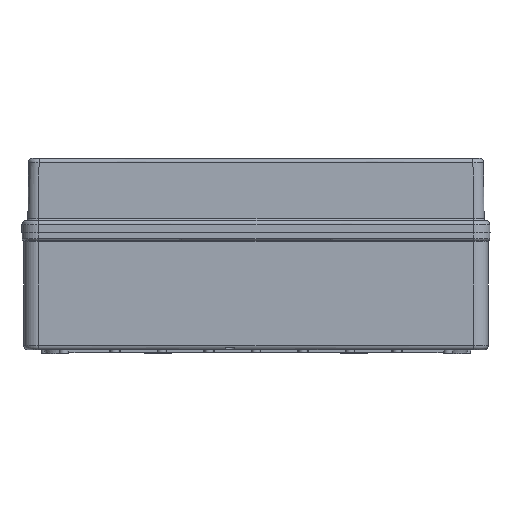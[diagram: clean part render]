
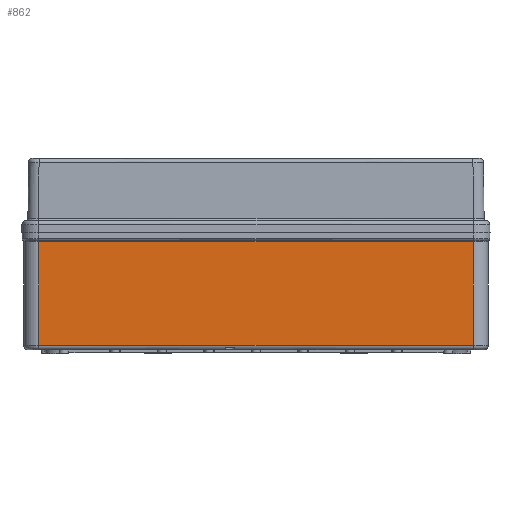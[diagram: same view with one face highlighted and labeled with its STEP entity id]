
A CAD part, front view. The second image highlights one B-rep face of the part: STEP entity #862.
In plain terms, the highlighted planar face has unit normal (0, -1, 0).
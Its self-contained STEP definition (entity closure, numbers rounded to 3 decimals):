
#400=B_SPLINE_CURVE_WITH_KNOTS('',3,(#8550,#8551,#8552,#8553,#8554,#8555,
#8556,#8557,#8558,#8559,#8560,#8561,#8562),.UNSPECIFIED.,.F.,.F.,(4,3,3,
3,4),(0.,0.017,0.084,0.352,1.),
 .UNSPECIFIED.);
#721=PLANE('',#6192);
#862=ADVANCED_FACE('',(#1240),#721,.F.);
#1240=FACE_OUTER_BOUND('',#1511,.T.);
#1511=EDGE_LOOP('',(#2789,#2790,#2791,#2792));
#1786=LINE('',#8078,#2184);
#1893=LINE('',#8548,#2291);
#1894=LINE('',#8549,#2292);
#2184=VECTOR('',#6623,1.);
#2291=VECTOR('',#6950,1.);
#2292=VECTOR('',#6951,1.);
#2789=ORIENTED_EDGE('',*,*,#4994,.T.);
#2790=ORIENTED_EDGE('',*,*,#4995,.T.);
#2791=ORIENTED_EDGE('',*,*,#4996,.F.);
#2792=ORIENTED_EDGE('',*,*,#4812,.F.);
#4115=VERTEX_POINT('',#8072);
#4118=VERTEX_POINT('',#8077);
#4234=VERTEX_POINT('',#8380);
#4239=VERTEX_POINT('',#8391);
#4812=EDGE_CURVE('',#4118,#4115,#1786,.T.);
#4994=EDGE_CURVE('',#4118,#4239,#1893,.T.);
#4995=EDGE_CURVE('',#4239,#4234,#1894,.T.);
#4996=EDGE_CURVE('',#4115,#4234,#400,.T.);
#6192=AXIS2_PLACEMENT_3D('',#8563,#6952,#6953);
#6623=DIRECTION('',(0.,0.,1.));
#6950=DIRECTION('',(1.,0.,0.));
#6951=DIRECTION('',(0.,0.,1.));
#6952=DIRECTION('',(0.,1.,0.));
#6953=DIRECTION('',(0.,0.,1.));
#8072=CARTESIAN_POINT('',(-143.3,-193.,71.3));
#8077=CARTESIAN_POINT('',(-143.3,-193.,3.));
#8078=CARTESIAN_POINT('',(-143.3,-193.,71.31));
#8380=CARTESIAN_POINT('',(143.3,-193.,71.3));
#8391=CARTESIAN_POINT('',(143.3,-193.,3.));
#8548=CARTESIAN_POINT('',(0.,-193.,3.));
#8549=CARTESIAN_POINT('',(143.3,-193.,37.15));
#8550=CARTESIAN_POINT('',(-143.3,-193.,71.3));
#8551=CARTESIAN_POINT('',(-141.7,-193.,71.3));
#8552=CARTESIAN_POINT('',(-140.1,-193.,71.3));
#8553=CARTESIAN_POINT('',(-138.5,-193.,71.3));
#8554=CARTESIAN_POINT('',(-132.1,-193.,71.3));
#8555=CARTESIAN_POINT('',(-125.7,-193.,71.3));
#8556=CARTESIAN_POINT('',(-119.3,-193.,71.3));
#8557=CARTESIAN_POINT('',(-93.7,-193.,71.3));
#8558=CARTESIAN_POINT('',(-68.1,-193.,71.3));
#8559=CARTESIAN_POINT('',(-42.5,-193.,71.3));
#8560=CARTESIAN_POINT('',(19.433,-193.,71.3));
#8561=CARTESIAN_POINT('',(81.367,-193.,71.3));
#8562=CARTESIAN_POINT('',(143.3,-193.,71.3));
#8563=CARTESIAN_POINT('',(0.,-193.,37.15));
